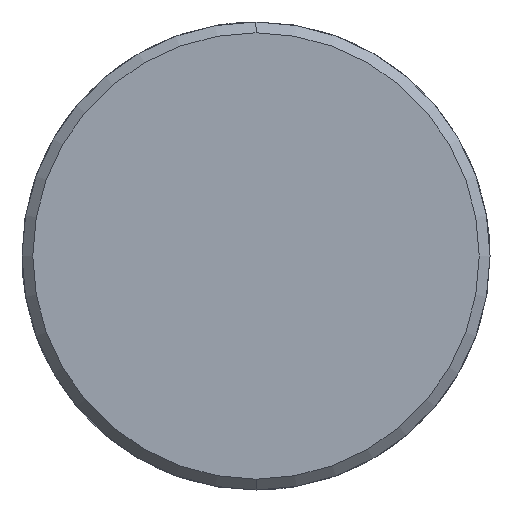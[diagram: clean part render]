
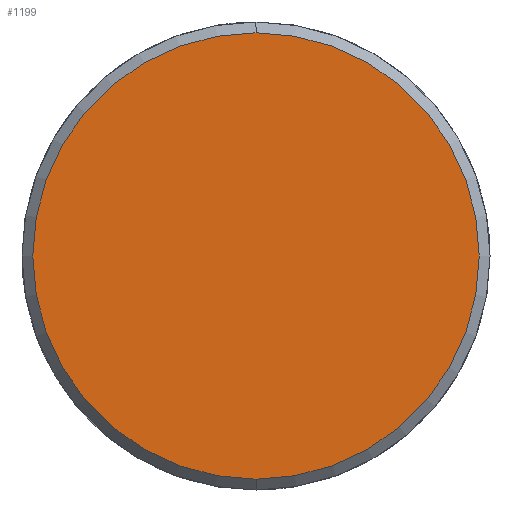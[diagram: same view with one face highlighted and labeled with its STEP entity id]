
A CAD part, left-side view. The second image highlights one B-rep face of the part: STEP entity #1199.
In plain terms, the highlighted planar face has unit normal (-1, 0, 0).
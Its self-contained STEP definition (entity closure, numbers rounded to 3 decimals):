
#1131=CARTESIAN_POINT('Vertex',(-10.,0.,-31.)) ;
#1134=CARTESIAN_POINT('Axis2P3D Location',(-10.,0.,0.)) ;
#1138=CARTESIAN_POINT('Vertex',(-10.,31.,0.)) ;
#1141=CARTESIAN_POINT('Axis2P3D Location',(-10.,0.,0.)) ;
#1145=CARTESIAN_POINT('Vertex',(-10.,0.,31.)) ;
#1167=CARTESIAN_POINT('Axis2P3D Location',(-10.,0.,0.)) ;
#1171=CARTESIAN_POINT('Vertex',(-10.,-31.,0.)) ;
#1174=CARTESIAN_POINT('Axis2P3D Location',(-10.,0.,0.)) ;
#1188=CARTESIAN_POINT('Axis2P3D Location',(-10.,0.,0.)) ;
#1135=DIRECTION('Axis2P3D Direction',(1.,0.,-0.)) ;
#1142=DIRECTION('Axis2P3D Direction',(1.,0.,-0.)) ;
#1168=DIRECTION('Axis2P3D Direction',(1.,0.,-0.)) ;
#1175=DIRECTION('Axis2P3D Direction',(1.,0.,-0.)) ;
#1189=DIRECTION('Axis2P3D Direction',(1.,0.,-0.)) ;
#1190=DIRECTION('Axis2P3D XDirection',(-0.,0.,-1.)) ;
#1136=AXIS2_PLACEMENT_3D('Circle Axis2P3D',#1134,#1135,$) ;
#1143=AXIS2_PLACEMENT_3D('Circle Axis2P3D',#1141,#1142,$) ;
#1169=AXIS2_PLACEMENT_3D('Circle Axis2P3D',#1167,#1168,$) ;
#1176=AXIS2_PLACEMENT_3D('Circle Axis2P3D',#1174,#1175,$) ;
#1191=AXIS2_PLACEMENT_3D('Plane Axis2P3D',#1188,#1189,#1190) ;
#1194=ORIENTED_EDGE('',*,*,#1140,.F.) ;
#1195=ORIENTED_EDGE('',*,*,#1178,.F.) ;
#1196=ORIENTED_EDGE('',*,*,#1173,.F.) ;
#1197=ORIENTED_EDGE('',*,*,#1147,.F.) ;
#1199=ADVANCED_FACE('351-50X146X300',(#1198),#1192,.F.) ;
#1137=CIRCLE('generated circle',#1136,31.) ;
#1144=CIRCLE('generated circle',#1143,31.) ;
#1170=CIRCLE('generated circle',#1169,31.) ;
#1177=CIRCLE('generated circle',#1176,31.) ;
#1140=EDGE_CURVE('',#1132,#1139,#1137,.T.) ;
#1147=EDGE_CURVE('',#1139,#1146,#1144,.T.) ;
#1173=EDGE_CURVE('',#1146,#1172,#1170,.T.) ;
#1178=EDGE_CURVE('',#1172,#1132,#1177,.T.) ;
#1193=EDGE_LOOP('',(#1194,#1195,#1196,#1197)) ;
#1198=FACE_OUTER_BOUND('',#1193,.T.) ;
#1192=PLANE('Plane',#1191) ;
#1132=VERTEX_POINT('',#1131) ;
#1139=VERTEX_POINT('',#1138) ;
#1146=VERTEX_POINT('',#1145) ;
#1172=VERTEX_POINT('',#1171) ;
